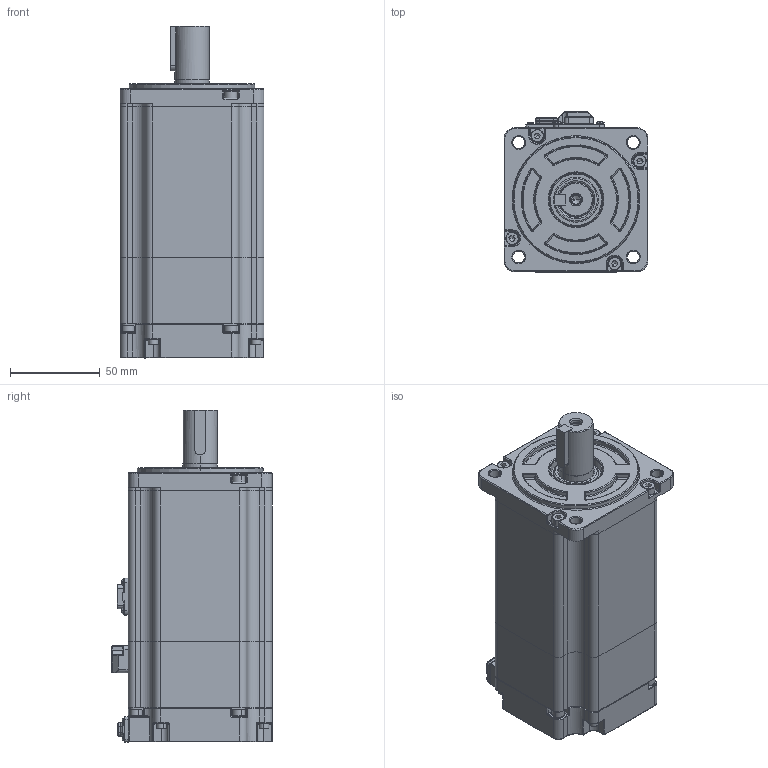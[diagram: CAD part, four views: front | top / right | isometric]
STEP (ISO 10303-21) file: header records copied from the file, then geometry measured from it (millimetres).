
FILE_DESCRIPTION (( 'STEP AP214' ), '1' );
FILE_NAME ('42长铁芯 带刹车 中惯量.STEP', '2021-09-26T01:03:27', ( '' ), ( '' ), 'SwSTEP 2.0', 'SolidWorks 2014', '' );
FILE_SCHEMA (( 'AUTOMOTIVE_DESIGN' ));
Length unit declared in the file: millimetre
Products named in the file (16): 普通型 平键   C 6x6x25 带M3起键螺钉孔0619; 80#陔綴傷裔-价陬遴; SC40陔晤鎢ん瑤脣釱sc-mc7p-a6-zhichuxianchazuo0619; E08B103AF1; 750w笢嫦講-儂褲0619; 42长铁芯 带刹车 中惯量; 80#陔晤鎢ん欶0619; 80#陔晤鎢ん欶躇猾菜0619; 60-80蚳蚚雄薯脣釱-sc-mc6p-ac-goubanchazuo0619; 囀鞠褒 ISO 4762 M4 x12--202012210619; 囀鞠褒 ISO 4762 M3 x 12 --- 12N0619; 蚐猾 D00B999YF5-TC 20-30-5-10619; 80#陔ヶ傷裔0619; 囀鞠褒 M4X16; 40#价陬堤盄揤盄裔1; 80#棠詩  42 1_D08B104B3
Assembly tree (24 placements, depth 2):
  42长铁芯 带刹车 中惯量
    80#陔綴傷裔-价陬遴
    750w笢嫦講-儂褲0619
    80#陔ヶ傷裔0619
    E08B103AF1
    60-80蚳蚚雄薯脣釱-sc-mc6p-ac-goubanchazuo0619
    蚐猾 D00B999YF5-TC 20-30-5-10619
    普通型 平键   C 6x6x25 带M3起键螺钉孔0619
    40#价陬堤盄揤盄裔1
    80#陔晤鎢ん欶躇猾菜0619
    80#陔晤鎢ん欶0619
    SC40陔晤鎢ん瑤脣釱sc-mc7p-a6-zhichuxianchazuo0619
    囀鞠褒 ISO 4762 M4 x12--202012210619  x4
    80#棠詩  42 1_D08B104B3
    囀鞠褒 ISO 4762 M3 x 12 --- 12N0619  x4
    囀鞠褒 M4X16  x4
Bounding box: 80 x 89 x 184.5 mm (x, y, z)
Volume: 295815.2 mm3; surface area: 152068.5 mm2
Topology: 33 solids, 33 shells, 4382 faces, 10870 edges, 6563 vertices
Faces by surface type: plane 1938, cylinder 1500, bspline 510, cone 222, torus 143, sphere 69
Entity records: 193950 total; most frequent: CARTESIAN_POINT 56248, ORIENTED_EDGE 20382, DIRECTION 19478, EDGE_CURVE 10191, AXIS2_PLACEMENT_3D 6741, VERTEX_POINT 6256, VECTOR 5996, LINE 5996
